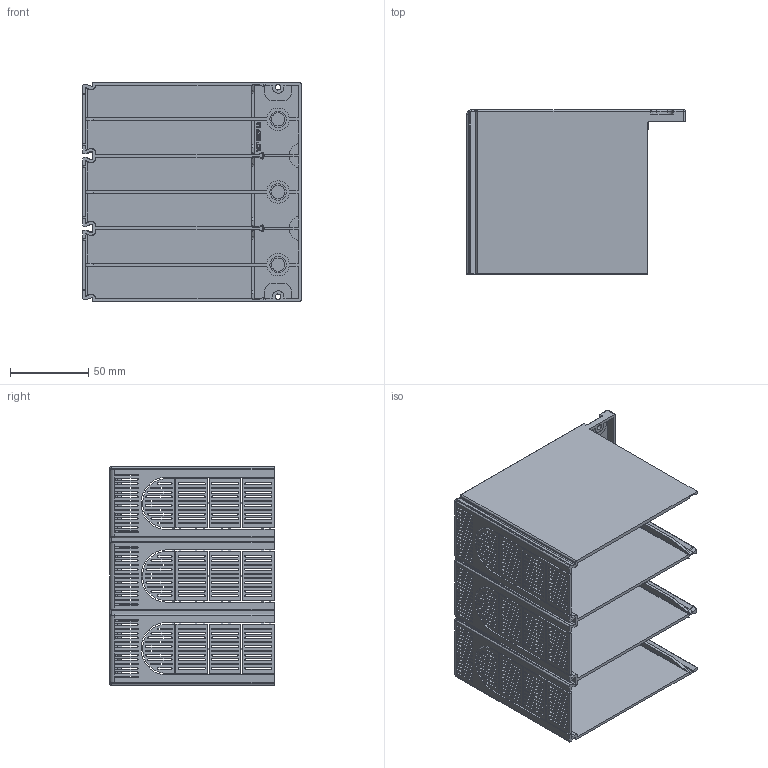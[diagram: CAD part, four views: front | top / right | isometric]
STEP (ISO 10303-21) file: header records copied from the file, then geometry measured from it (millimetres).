
FILE_DESCRIPTION((''),'2;1');
FILE_NAME('U6_3P_LONG_TERMINAL_COVER','2018-06-04T',('HHI'),(''),'PRO/ENGINEER BY PARAMETRIC TECHNOLOGY CORPORATION, 2012453','PRO/ENGINEER BY PARAMETRIC TECHNOLOGY CORPORATION, 2012453','');
FILE_SCHEMA(('CONFIG_CONTROL_DESIGN'));
Length unit declared in the file: millimetre
Products named in the file (1): U6_3P_LONG_TERMINAL_COVER
Bounding box: 139.8 x 105 x 140 mm (x, y, z)
Volume: 169709 mm3; surface area: 186779 mm2
Topology: 1 solids, 1 shells, 1628 faces, 4907 edges, 3166 vertices
Faces by surface type: plane 818, cylinder 553, extrusion 119, torus 58, bspline 48, cone 18, sphere 14
Entity records: 58143 total; most frequent: CARTESIAN_POINT 13169, ORIENTED_EDGE 9798, DIRECTION 8844, EDGE_CURVE 4899, VECTOR 3378, LINE 3259, VERTEX_POINT 3164, AXIS2_PLACEMENT_3D 2733
